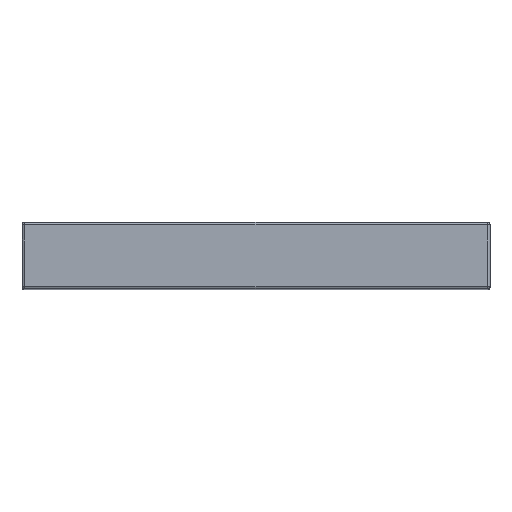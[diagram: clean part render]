
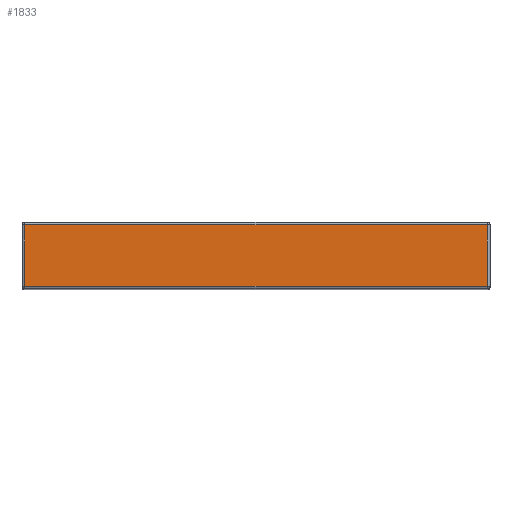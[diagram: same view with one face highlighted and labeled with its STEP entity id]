
A CAD part, top view. The second image highlights one B-rep face of the part: STEP entity #1833.
In plain terms, the highlighted planar face has unit normal (0, 0, 1).
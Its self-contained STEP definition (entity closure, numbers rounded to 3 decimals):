
#112 = ORIENTED_EDGE ( 'NONE', *, *, #816, .T. ) ;
#218 = VECTOR ( 'NONE', #3182, 1000. ) ;
#240 = DIRECTION ( 'NONE',  ( 0., 0., -1. ) ) ;
#276 = EDGE_CURVE ( 'NONE', #3324, #1747, #3764, .T. ) ;
#398 = CARTESIAN_POINT ( 'NONE',  ( -90.5, 25., 91.5 ) ) ;
#448 = VECTOR ( 'NONE', #906, 1000. ) ;
#514 = DIRECTION ( 'NONE',  ( -1., 0., 0. ) ) ;
#577 = ORIENTED_EDGE ( 'NONE', *, *, #276, .T. ) ;
#705 = AXIS2_PLACEMENT_3D ( 'NONE', #1960, #240, #1706 ) ;
#805 = FACE_OUTER_BOUND ( 'NONE', #986, .T. ) ;
#816 = EDGE_CURVE ( 'NONE', #3402, #3324, #2730, .T. ) ;
#906 = DIRECTION ( 'NONE',  ( 0., 1., 0. ) ) ;
#963 = VECTOR ( 'NONE', #3608, 1000. ) ;
#986 = EDGE_LOOP ( 'NONE', ( #577, #1808, #2657, #112 ) ) ;
#1121 = EDGE_CURVE ( 'NONE', #3444, #3402, #1199, .T. ) ;
#1199 = LINE ( 'NONE', #2135, #963 ) ;
#1419 = CARTESIAN_POINT ( 'NONE',  ( 90.5, 1., 91.5 ) ) ;
#1593 = CARTESIAN_POINT ( 'NONE',  ( 90.5, 25., 91.5 ) ) ;
#1706 = DIRECTION ( 'NONE',  ( -1., 0., 0. ) ) ;
#1747 = VERTEX_POINT ( 'NONE', #398 ) ;
#1808 = ORIENTED_EDGE ( 'NONE', *, *, #1813, .T. ) ;
#1813 = EDGE_CURVE ( 'NONE', #1747, #3444, #1997, .T. ) ;
#1833 = ADVANCED_FACE ( 'NONE', ( #805 ), #3432, .F. ) ;
#1960 = CARTESIAN_POINT ( 'NONE',  ( -91.5, 26., 91.5 ) ) ;
#1997 = LINE ( 'NONE', #2892, #218 ) ;
#2135 = CARTESIAN_POINT ( 'NONE',  ( 91.5, 1., 91.5 ) ) ;
#2180 = VECTOR ( 'NONE', #514, 1000. ) ;
#2657 = ORIENTED_EDGE ( 'NONE', *, *, #1121, .T. ) ;
#2730 = LINE ( 'NONE', #3325, #448 ) ;
#2878 = CARTESIAN_POINT ( 'NONE',  ( -91.5, 25., 91.5 ) ) ;
#2892 = CARTESIAN_POINT ( 'NONE',  ( -90.5, 26., 91.5 ) ) ;
#3182 = DIRECTION ( 'NONE',  ( 0., -1., 0. ) ) ;
#3324 = VERTEX_POINT ( 'NONE', #1593 ) ;
#3325 = CARTESIAN_POINT ( 'NONE',  ( 90.5, 26., 91.5 ) ) ;
#3402 = VERTEX_POINT ( 'NONE', #1419 ) ;
#3432 = PLANE ( 'NONE',  #705 ) ;
#3444 = VERTEX_POINT ( 'NONE', #3716 ) ;
#3608 = DIRECTION ( 'NONE',  ( 1., 0., 0. ) ) ;
#3716 = CARTESIAN_POINT ( 'NONE',  ( -90.5, 1., 91.5 ) ) ;
#3764 = LINE ( 'NONE', #2878, #2180 ) ;
